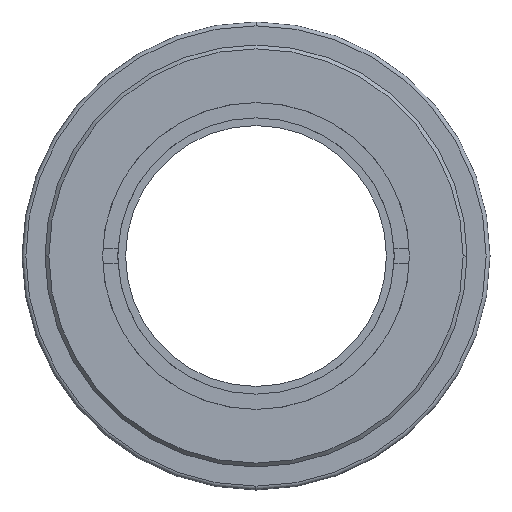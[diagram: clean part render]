
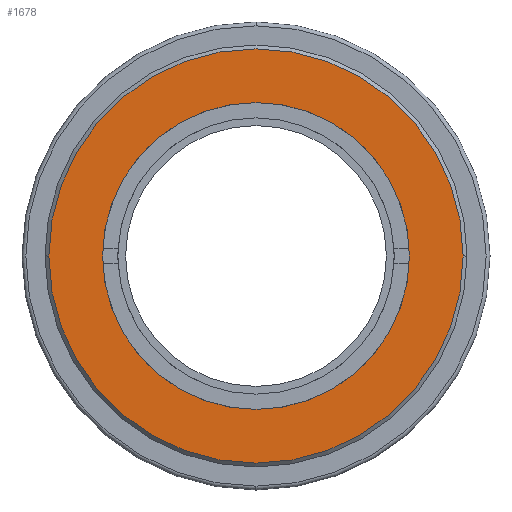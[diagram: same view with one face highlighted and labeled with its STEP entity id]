
A CAD part, left-side view. The second image highlights one B-rep face of the part: STEP entity #1678.
In plain terms, the highlighted planar face has unit normal (-1, 0, 0).
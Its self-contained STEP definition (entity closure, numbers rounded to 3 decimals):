
#31 = FACE_OUTER_BOUND ( 'NONE', #1667, .T. ) ;
#43 = DIRECTION ( 'NONE',  ( 0., 0., 1. ) ) ;
#109 = ORIENTED_EDGE ( 'NONE', *, *, #670, .F. ) ;
#123 = CIRCLE ( 'NONE', #982, 20. ) ;
#186 = EDGE_CURVE ( 'NONE', #267, #369, #766, .T. ) ;
#267 = VERTEX_POINT ( 'NONE', #907 ) ;
#357 = AXIS2_PLACEMENT_3D ( 'NONE', #1782, #929, #1082 ) ;
#369 = VERTEX_POINT ( 'NONE', #1519 ) ;
#425 = VERTEX_POINT ( 'NONE', #1283 ) ;
#457 = CARTESIAN_POINT ( 'NONE',  ( -15.402, -1.053, 0. ) ) ;
#495 = CARTESIAN_POINT ( 'NONE',  ( -15.402, -1.053, 0. ) ) ;
#498 = AXIS2_PLACEMENT_3D ( 'NONE', #495, #1656, #802 ) ;
#503 = DIRECTION ( 'NONE',  ( 0., 0., -1. ) ) ;
#609 = AXIS2_PLACEMENT_3D ( 'NONE', #1650, #1671, #503 ) ;
#618 = EDGE_CURVE ( 'NONE', #818, #425, #123, .T. ) ;
#670 = EDGE_CURVE ( 'NONE', #425, #818, #1297, .T. ) ;
#686 = EDGE_CURVE ( 'NONE', #369, #267, #918, .T. ) ;
#766 = CIRCLE ( 'NONE', #1567, 27. ) ;
#799 = DIRECTION ( 'NONE',  ( -1., 0., 0. ) ) ;
#802 = DIRECTION ( 'NONE',  ( 0., 0., 1. ) ) ;
#818 = VERTEX_POINT ( 'NONE', #1807 ) ;
#863 = ORIENTED_EDGE ( 'NONE', *, *, #186, .T. ) ;
#907 = CARTESIAN_POINT ( 'NONE',  ( -15.402, -28.053, 0. ) ) ;
#918 = CIRCLE ( 'NONE', #357, 27. ) ;
#929 = DIRECTION ( 'NONE',  ( -1., 0., 0. ) ) ;
#982 = AXIS2_PLACEMENT_3D ( 'NONE', #457, #1607, #43 ) ;
#1020 = EDGE_LOOP ( 'NONE', ( #109, #1840 ) ) ;
#1034 = FACE_BOUND ( 'NONE', #1020, .T. ) ;
#1082 = DIRECTION ( 'NONE',  ( 0., 0., -1. ) ) ;
#1283 = CARTESIAN_POINT ( 'NONE',  ( -15.402, -1.053, 20. ) ) ;
#1297 = CIRCLE ( 'NONE', #498, 20. ) ;
#1356 = PLANE ( 'NONE',  #609 ) ;
#1489 = CARTESIAN_POINT ( 'NONE',  ( -15.402, -1.053, 0. ) ) ;
#1519 = CARTESIAN_POINT ( 'NONE',  ( -15.402, 25.947, 0. ) ) ;
#1567 = AXIS2_PLACEMENT_3D ( 'NONE', #1489, #799, #1634 ) ;
#1607 = DIRECTION ( 'NONE',  ( -1., 0., 0. ) ) ;
#1615 = ORIENTED_EDGE ( 'NONE', *, *, #686, .T. ) ;
#1634 = DIRECTION ( 'NONE',  ( 0., 0., -1. ) ) ;
#1650 = CARTESIAN_POINT ( 'NONE',  ( -15.402, -1.053, 0. ) ) ;
#1656 = DIRECTION ( 'NONE',  ( -1., 0., 0. ) ) ;
#1667 = EDGE_LOOP ( 'NONE', ( #1615, #863 ) ) ;
#1671 = DIRECTION ( 'NONE',  ( 1., 0., 0. ) ) ;
#1678 = ADVANCED_FACE ( 'NONE', ( #1034, #31 ), #1356, .F. ) ;
#1782 = CARTESIAN_POINT ( 'NONE',  ( -15.402, -1.053, 0. ) ) ;
#1807 = CARTESIAN_POINT ( 'NONE',  ( -15.402, -1.053, -20. ) ) ;
#1840 = ORIENTED_EDGE ( 'NONE', *, *, #618, .F. ) ;
